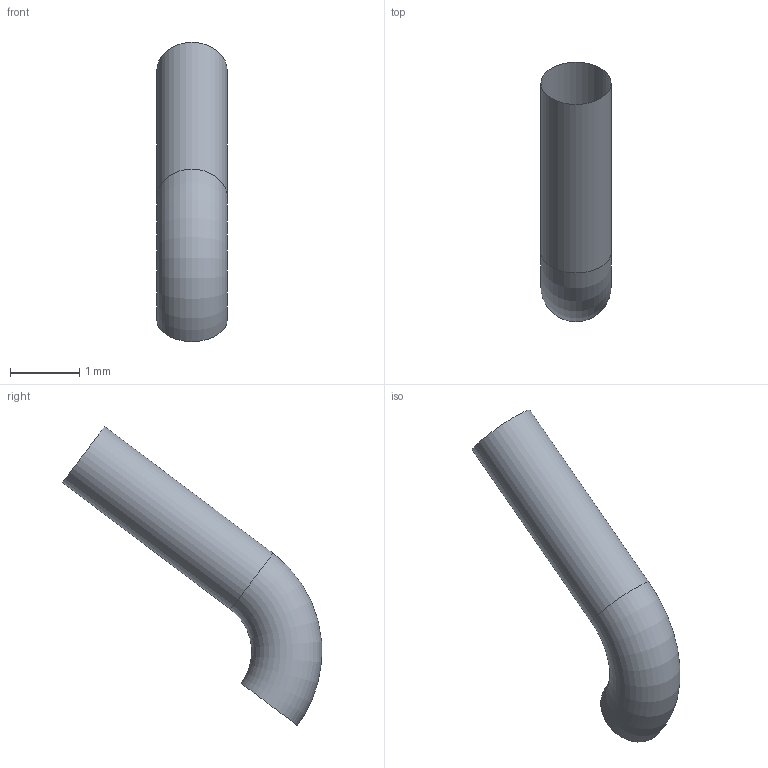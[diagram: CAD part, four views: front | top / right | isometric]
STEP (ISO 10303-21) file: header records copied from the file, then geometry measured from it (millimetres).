
FILE_DESCRIPTION(/* description */ ('STEP AP242 Edition 2','CAx-IF Rec.Pracs.---Representation and Presentation of Product Manufacturing Information (PMI)---4.0---2014-10-13','CAx-IF Rec.Pracs.---3D Tessellated Geometry---0.4---2014-09-14','2;1','CAx-IF Rec.Pracs.---User Defined Attributes---1.5---2016-08-15'),/* implementation_level */ '2;1');
FILE_NAME(/* name */ 'Part Studio 1 - Surface 39',/* time_stamp */ '2026-11-25T23:28:52Z',/* author */ (''),/* organization */ (''),/* preprocessor_version */ 'ST-DEVELOPER v20',/* originating_system */ 'ONSHAPE BY PTC INC, 1.224',/* authorisation */ ' ');
FILE_SCHEMA (('AP242_MANAGED_MODEL_BASED_3D_ENGINEERING_MIM_LF { 1 0 10303 442 3 1 4 }'));
Length unit declared in the file: metre
Products named in the file (1): NONE
Bounding box: 1.02 x 3.75 x 4.32 mm (x, y, z)
Surface area: 16.1 mm2 (no closed solid volume)
Topology: 0 solids, 1 shells, 2 faces, 5 edges, 3 vertices
Faces by surface type: torus 1, cylinder 1
Full cylindrical faces by diameter (mm): 1.016 x1
Entity records: 69 total; most frequent: DIRECTION 12, CARTESIAN_POINT 9, AXIS2_PLACEMENT_3D 6, ORIENTED_EDGE 4, EDGE_LOOP 4, FACE_BOUND 4, EDGE_CURVE 3, VERTEX_POINT 3
